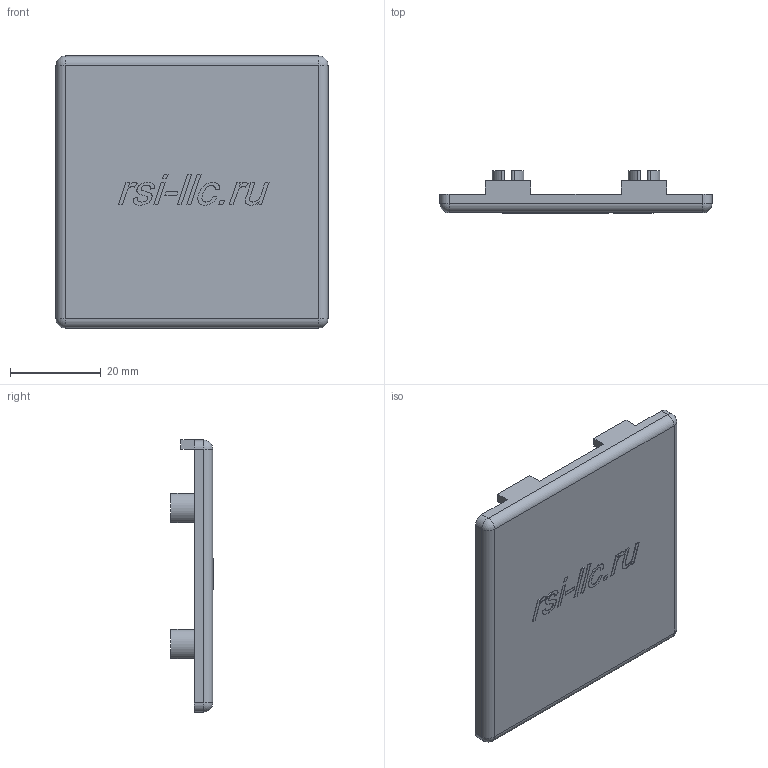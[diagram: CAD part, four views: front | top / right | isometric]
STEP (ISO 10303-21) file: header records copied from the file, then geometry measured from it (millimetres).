
FILE_DESCRIPTION (( 'STEP AP214' ), '1' );
FILE_NAME ('4015.STEP', '2020-10-20T11:53:59', ( '' ), ( '' ), 'SwSTEP 2.0', 'SolidWorks 2018', '' );
FILE_SCHEMA (( 'AUTOMOTIVE_DESIGN' ));
Length unit declared in the file: millimetre
Products named in the file (1): 4015
Bounding box: 60 x 9.3 x 60 mm (x, y, z)
Volume: 8508.3 mm3; surface area: 9436.3 mm2
Topology: 1 solids, 1 shells, 224 faces, 561 edges, 354 vertices
Faces by surface type: plane 88, cylinder 56, torus 44, bspline 32, sphere 4
Entity records: 9477 total; most frequent: CARTESIAN_POINT 3120, ORIENTED_EDGE 1114, DIRECTION 1083, EDGE_CURVE 557, AXIS2_PLACEMENT_3D 397, VERTEX_POINT 354, LINE 289, VECTOR 289
